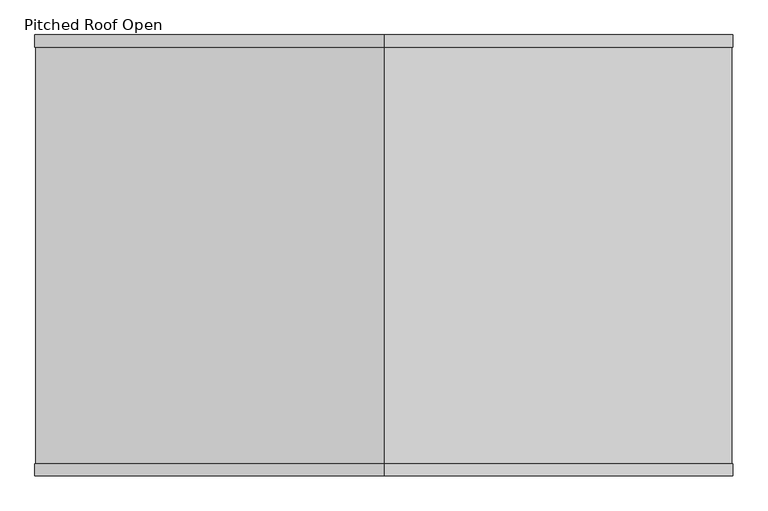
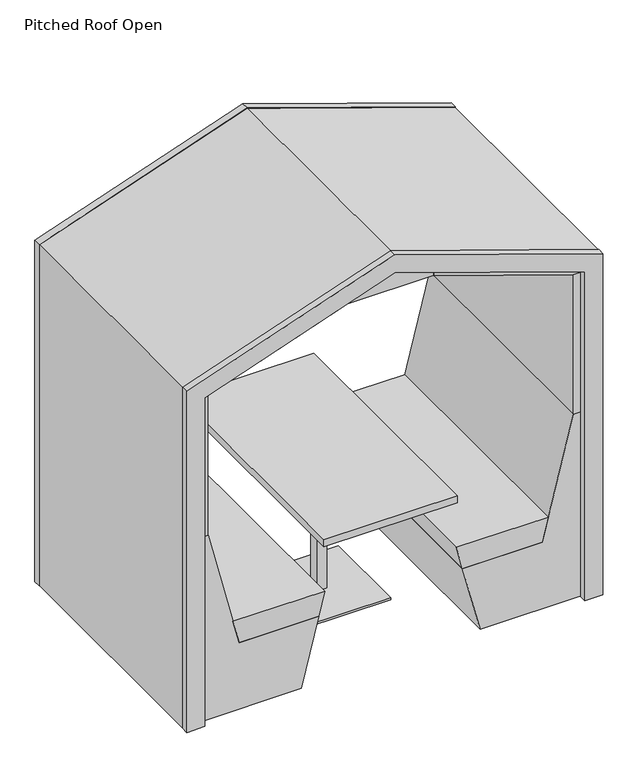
"""IFC4 building model written with IfcOpenShell, lengths in millimetres: furniture geometry, Furniture_WorkPod_Spacestor_RailwayCarriage : Pitched Roof Open."""

from ifc_helpers import new_model, si_unit, point, frame, frame_2d, origin, origin_with_axes, place, context, project, spatial, polyline, circle_curve, trimmed, segment, composite_curve, outline, extrude, source, transform, mapped, element, save


def pitched_roof_open_70e2cd3d(model_context):
    return source(origin(), model_context, "Body", "SweptSolid", [
        extrude(outline(composite_curve([segment(trimmed(circle_curve(frame_2d((988.5, -1002.0)), 15.0), [point((973.5, -1002.0))], [point((1003.5, -1002.0))], False, "CARTESIAN"), True, "CONTINUOUS"), segment(trimmed(circle_curve(frame_2d((988.5, -1002.0)), 15.0), [point((1003.5, -1002.0))], [point((973.5, -1002.0))], False, "CARTESIAN"), True, "CONTINUOUS")], self_intersect=False)), origin_with_axes(), (0.0, 0.0, 1.0), 15.0),
        extrude(outline(composite_curve([segment(trimmed(circle_curve(frame_2d((-988.5, -1002.0)), 15.0), [point((-1003.5, -1002.0))], [point((-973.5, -1002.0))], False, "CARTESIAN"), True, "CONTINUOUS"), segment(trimmed(circle_curve(frame_2d((-988.5, -1002.0)), 15.0), [point((-973.5, -1002.0))], [point((-1003.5, -1002.0))], False, "CARTESIAN"), True, "CONTINUOUS")], self_intersect=False)), origin_with_axes(), (0.0, 0.0, 1.0), 15.0),
        extrude(outline(composite_curve([segment(trimmed(circle_curve(frame_2d((988.5, -167.0)), 15.0), [point((973.5, -167.0))], [point((1003.5, -167.0))], False, "CARTESIAN"), True, "CONTINUOUS"), segment(trimmed(circle_curve(frame_2d((988.5, -167.0)), 15.0), [point((1003.5, -167.0))], [point((973.5, -167.0))], False, "CARTESIAN"), True, "CONTINUOUS")], self_intersect=False)), origin_with_axes(), (0.0, 0.0, 1.0), 15.0),
        extrude(outline(composite_curve([segment(trimmed(circle_curve(frame_2d((-988.5, -167.0)), 15.0), [point((-1003.5, -167.0))], [point((-973.5, -167.0))], False, "CARTESIAN"), True, "CONTINUOUS"), segment(trimmed(circle_curve(frame_2d((-988.5, -167.0)), 15.0), [point((-973.5, -167.0))], [point((-1003.5, -167.0))], False, "CARTESIAN"), True, "CONTINUOUS")], self_intersect=False)), origin_with_axes(), (0.0, 0.0, 1.0), 15.0),
        extrude(outline(polyline([(3.0, -940.0), (1724.2324375, -940.0), (2047.900394, 0.0), (1724.2324375, 940.0), (3.0, 940.0), (3.0, 1030.0), (1788.4288136, 1030.0), (2143.0862553, 0.0), (1788.4288136, -1030.0), (3.0, -1030.0), (3.0, -940.0)])), frame((0.0, 0.0, 0.0), z_axis=(0.0, 1.0, 0.0), x_axis=(0.0, 0.0, 1.0)), (0.0, 0.0, 1.0), 36.0),
        extrude(outline(polyline([(3.0, -940.0), (1724.2324375, -940.0), (2047.900394, 0.0), (1724.2324375, 940.0), (3.0, 940.0), (3.0, 1030.0), (1788.4288136, 1030.0), (2143.0862553, 0.0), (1788.4288136, -1030.0), (3.0, -1030.0), (3.0, -940.0)])), frame((0.0, -1266.0, 0.0), z_axis=(0.0, 1.0, 0.0), x_axis=(0.0, 0.0, 1.0)), (0.0, 0.0, 1.0), 36.0),
        extrude(outline(polyline([(2047.56, -85.4562969), (2003.8153449, -212.5), (1937.9, -212.5), (1937.9, 212.5), (2003.8153449, 212.5), (2047.56, 85.4562969), (2047.56, -85.4562969)])), frame((0.0, -1230.0, 0.0), z_axis=(0.0, 1.0, 0.0), x_axis=(0.0, 0.0, 1.0)), (0.0, 0.0, 1.0), 1230.0),
        extrude(outline(polyline([(-904.5, -1230.0), (-966.5, -1230.0), (-966.5, 0.0), (-904.5, 0.0), (-904.5, -1230.0)])), frame((0.0, 0.0, 969.0), z_axis=(0.0, 0.0, 1.0), x_axis=(1.0, 0.0, 0.0)), (0.0, 0.0, 1.0), 730.63),
        extrude(outline(polyline([(966.5, -1230.0), (904.5, -1230.0), (904.5, 0.0), (966.5, 0.0), (966.5, -1230.0)])), frame((0.0, 0.0, 969.0), z_axis=(0.0, 0.0, 1.0), x_axis=(1.0, 0.0, 0.0)), (0.0, 0.0, 1.0), 730.63),
        extrude(outline(polyline([(1744.1923245, -966.5), (1699.6238267, -966.5), (1699.6238267, -904.5), (1937.8985351, -212.5), (2003.8153449, -212.5), (1744.1923245, -966.5)])), frame((0.0, -1230.0, 0.0), z_axis=(0.0, 1.0, 0.0), x_axis=(0.0, 0.0, 1.0)), (0.0, 0.0, 1.0), 1230.0),
        extrude(outline(polyline([(1744.1923245, 966.5), (2003.8153449, 212.5), (1937.8985351, 212.5), (1699.6238267, 904.5), (1699.6238267, 966.5), (1744.1923245, 966.5)])), frame((0.0, -1230.0, 0.0), z_axis=(0.0, 1.0, 0.0), x_axis=(0.0, 0.0, 1.0)), (0.0, 0.0, 1.0), 1230.0),
        extrude(outline(polyline([(354.0, -750.5348655), (354.0, -355.6348655), (475.0, -325.4661771), (475.0, -780.6245423), (354.0, -750.5348655)])), frame((0.0, -1230.0, 0.0), z_axis=(0.0, 1.0, 0.0), x_axis=(0.0, 0.0, 1.0)), (0.0, 0.0, 1.0), 1230.0),
        extrude(outline(polyline([(354.0, 750.5348655), (475.0, 780.6245423), (475.0, 325.4661771), (354.0, 355.6348655), (354.0, 750.5348655)])), frame((0.0, -1230.0, 0.0), z_axis=(0.0, 1.0, 0.0), x_axis=(0.0, 0.0, 1.0)), (0.0, 0.0, 1.0), 1230.0),
        extrude(outline(polyline([(969.0, -903.47), (969.0, -967.0), (6.0, -967.0), (6.0, -442.4010105), (354.0, -355.6348655), (354.0, -750.5348655), (969.0, -903.47)])), frame((0.0, -1230.0, 0.0), z_axis=(0.0, 1.0, 0.0), x_axis=(0.0, 0.0, 1.0)), (0.0, 0.0, 1.0), 1230.0),
        extrude(outline(polyline([(969.0, 903.47), (354.0, 750.5348655), (354.0, 355.6348655), (6.0, 442.4010105), (6.0, 967.0), (969.0, 967.0), (969.0, 903.47)])), frame((0.0, -1230.0, 0.0), z_axis=(0.0, 1.0, 0.0), x_axis=(0.0, 0.0, 1.0)), (0.0, 0.0, 1.0), 1230.0),
        extrude(outline(polyline([(225.0, -390.0), (225.0, -840.0), (-225.0, -840.0), (-225.0, -390.0), (225.0, -390.0)])), origin_with_axes(), (0.0, 0.0, 1.0), 10.0),
        extrude(outline(polyline([(25.0, -590.0), (25.0, -640.0), (-25.0, -640.0), (-25.0, -590.0), (25.0, -590.0)])), frame((0.0, 0.0, 1.5), z_axis=(0.0, 0.0, 1.0), x_axis=(1.0, 0.0, 0.0)), (0.0, 0.0, 1.0), 705.0),
        extrude(outline(polyline([(330.0, 0.0), (330.0, -1230.0), (-330.0, -1230.0), (-330.0, 0.0), (330.0, 0.0)])), frame((0.0, 0.0, 708.0), z_axis=(0.0, 0.0, 1.0), x_axis=(1.0, 0.0, 0.0)), (0.0, 0.0, 1.0), 36.0),
        extrude(outline(polyline([(3.0, -1010.0), (1774.1629523, -1010.0), (2121.9338417, 0.0), (1774.1629523, 1010.0), (3.0, 1010.0), (3.0, 1028.0), (1787.0022275, 1028.0), (2140.971014, 0.0), (1787.0022275, -1028.0), (3.0, -1028.0), (3.0, -1010.0)])), frame((0.0, -1230.0, 0.0), z_axis=(0.0, 1.0, 0.0), x_axis=(0.0, 0.0, 1.0)), (0.0, 0.0, 1.0), 1230.0),
    ])


if __name__ == "__main__":
    model = new_model("IFC4")
    model_context = context("Model", 3, world=origin())
    ifc_project = project(units=[si_unit("LENGTHUNIT", "METRE", prefix="MILLI")], contexts=[model_context])
    site = spatial("IfcSite", under=ifc_project)
    building = spatial("IfcBuilding", under=site)
    placement = place(None, origin())
    pitched_roof_open_shape = pitched_roof_open_70e2cd3d(model_context)
    element("IfcFurniture", 1, ObjectType="Furniture_WorkPod_Spacestor_RailwayCarriage : Pitched Roof Open", at=placement, inside=building, context=model_context, shape_type="MappedRepresentation", body=[
        mapped(pitched_roof_open_shape, transform((0.0, 0.0, 0.0), x_axis=(1.0, 0.0, 0.0), y_axis=(0.0, 1.0, 0.0), z_axis=(0.0, 0.0, 1.0))),
    ])
    save(model, "model.ifc")
